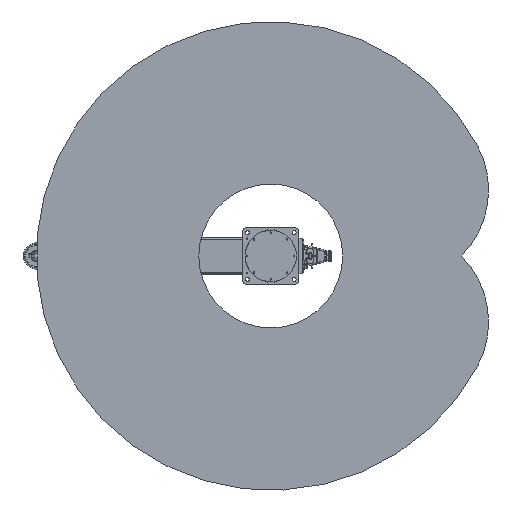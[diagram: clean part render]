
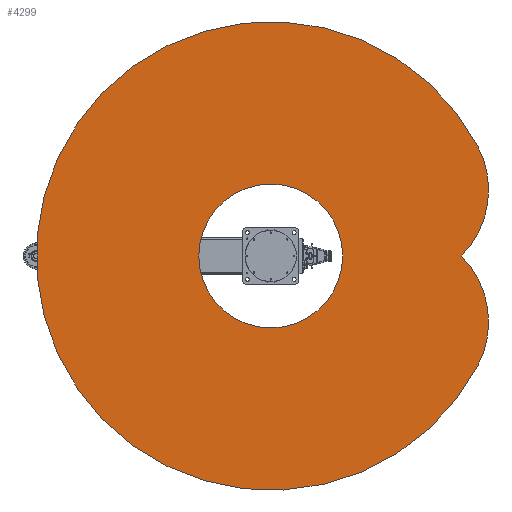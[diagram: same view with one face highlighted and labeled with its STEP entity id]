
A CAD part, front view. The second image highlights one B-rep face of the part: STEP entity #4299.
In plain terms, the highlighted planar face has unit normal (0, -1, 0).
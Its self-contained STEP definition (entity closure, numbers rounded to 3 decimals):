
#4299 = ADVANCED_FACE( '', ( #10452, #10453 ), #10454, .F. );
#10452 = FACE_BOUND( '', #19392, .T. );
#10453 = FACE_OUTER_BOUND( '', #19393, .T. );
#10454 = PLANE( '', #19394 );
#19392 = EDGE_LOOP( '', ( #33018 ) );
#19393 = EDGE_LOOP( '', ( #33019, #33020, #33021 ) );
#19394 = AXIS2_PLACEMENT_3D( '', #33022, #33023, #33024 );
#33018 = ORIENTED_EDGE( '', *, *, #46535, .T. );
#33019 = ORIENTED_EDGE( '', *, *, #50365, .F. );
#33020 = ORIENTED_EDGE( '', *, *, #50366, .F. );
#33021 = ORIENTED_EDGE( '', *, *, #48143, .F. );
#33022 = CARTESIAN_POINT( '', ( 140.842, 0., 264.885 ) );
#33023 = DIRECTION( '', ( 0., 1., 0. ) );
#33024 = DIRECTION( '', ( 0., 0., 1. ) );
#46535 = EDGE_CURVE( '', #54614, #54614, #54615, .T. );
#48143 = EDGE_CURVE( '', #57404, #57405, #57406, .T. );
#50365 = EDGE_CURVE( '', #60956, #57404, #60957, .T. );
#50366 = EDGE_CURVE( '', #57405, #60956, #60958, .T. );
#54614 = VERTEX_POINT( '', #66575 );
#54615 = CIRCLE( '', #66576, 307. );
#57404 = VERTEX_POINT( '', #71268 );
#57405 = VERTEX_POINT( '', #71269 );
#57406 = CIRCLE( '', #71270, 1000. );
#60956 = VERTEX_POINT( '', #77765 );
#60957 = CIRCLE( '', #77766, 400. );
#60958 = CIRCLE( '', #77767, 400. );
#66575 = CARTESIAN_POINT( '', ( 307., 0., 0. ) );
#66576 = AXIS2_PLACEMENT_3D( '', #85504, #85505, #85506 );
#71268 = CARTESIAN_POINT( '', ( 470.133, 0., 882.596 ) );
#71269 = CARTESIAN_POINT( '', ( -470.133, 0., 882.596 ) );
#71270 = AXIS2_PLACEMENT_3D( '', #87463, #87464, #87465 );
#77765 = CARTESIAN_POINT( '', ( 0., 0., 813.767 ) );
#77766 = AXIS2_PLACEMENT_3D( '', #90280, #90281, #90282 );
#77767 = AXIS2_PLACEMENT_3D( '', #90283, #90284, #90285 );
#85504 = CARTESIAN_POINT( '', ( 0., 0., 0. ) );
#85505 = DIRECTION( '', ( 0., 1., 0. ) );
#85506 = DIRECTION( '', ( 1., 0., 0. ) );
#87463 = CARTESIAN_POINT( '', ( 0., 0., 0. ) );
#87464 = DIRECTION( '', ( 0., 1., 0. ) );
#87465 = DIRECTION( '', ( 1., 0., 0. ) );
#90280 = CARTESIAN_POINT( '', ( 281.683, 0., 529.769 ) );
#90281 = DIRECTION( '', ( 0., 1., 0. ) );
#90282 = DIRECTION( '', ( 1., 0., 0. ) );
#90283 = CARTESIAN_POINT( '', ( -281.683, 0., 529.769 ) );
#90284 = DIRECTION( '', ( 0., 1., 0. ) );
#90285 = DIRECTION( '', ( 1., 0., 0. ) );
